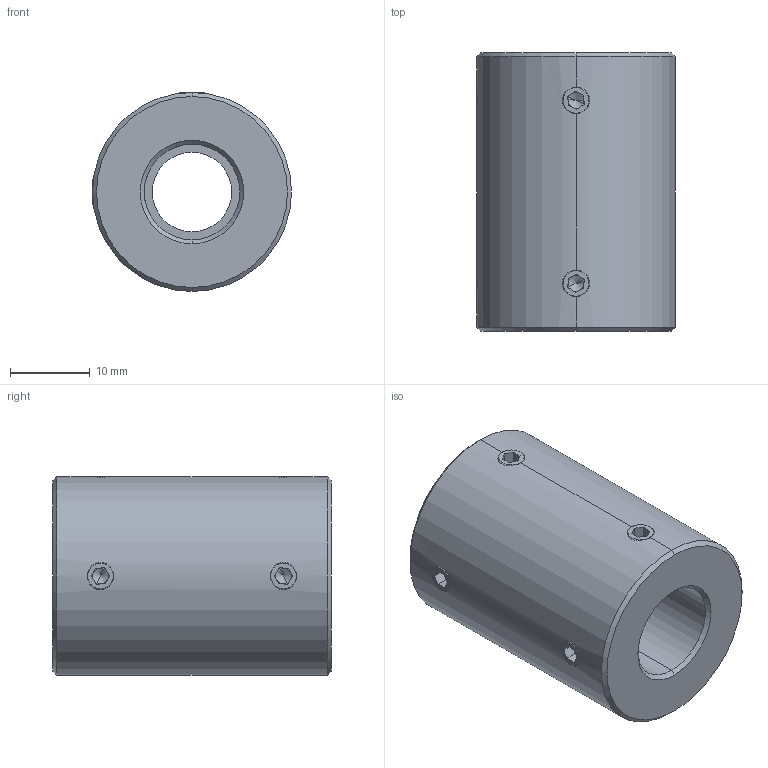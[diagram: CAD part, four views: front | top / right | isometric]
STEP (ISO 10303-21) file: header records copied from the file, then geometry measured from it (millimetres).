
FILE_DESCRIPTION (( 'STEP AP214' ), '1' );
FILE_NAME ('LL-D-D25L35-10-12½¨Ä£.STEP', '2022-07-23T00:44:22', ( '' ), ( '' ), 'SwSTEP 2.0', 'SolidWorks 2022', '' );
FILE_SCHEMA (( 'AUTOMOTIVE_DESIGN' ));
Length unit declared in the file: millimetre
Products named in the file (1): LL-D-D25L35-10-12膘耀
Bounding box: 25 x 35 x 25 mm (x, y, z)
Volume: 13668.6 mm3; surface area: 4913.5 mm2
Topology: 1 solids, 1 shells, 113 faces, 286 edges, 176 vertices
Faces by surface type: plane 59, cone 32, cylinder 22
Entity records: 3724 total; most frequent: CARTESIAN_POINT 1014, DIRECTION 558, ORIENTED_EDGE 556, EDGE_CURVE 278, AXIS2_PLACEMENT_3D 206, VERTEX_POINT 176, VECTOR 146, LINE 146
